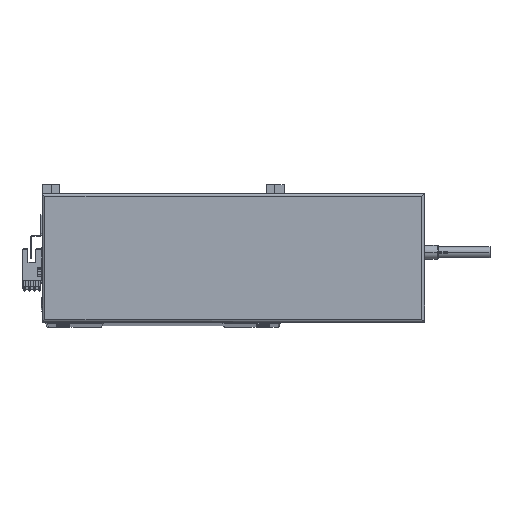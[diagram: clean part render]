
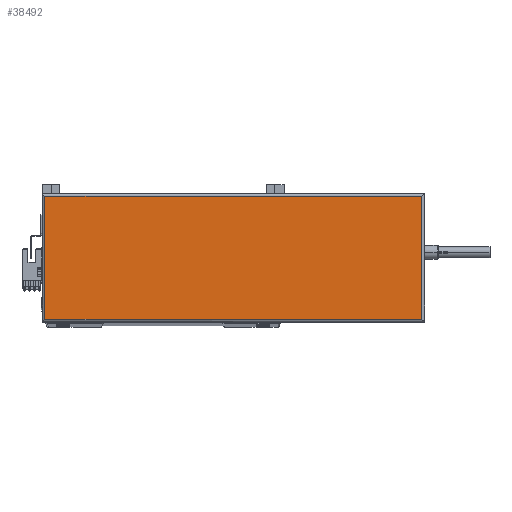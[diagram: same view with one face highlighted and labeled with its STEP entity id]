
A CAD part, top view. The second image highlights one B-rep face of the part: STEP entity #38492.
In plain terms, the highlighted planar face has unit normal (0, 0, 1).
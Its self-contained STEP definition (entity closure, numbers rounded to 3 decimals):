
#622 = VECTOR ( 'NONE', #47829, 1000. ) ;
#3117 = CARTESIAN_POINT ( 'NONE',  ( 265., 2., 44.8 ) ) ;
#6159 = EDGE_CURVE ( 'NONE', #48259, #52795, #32741, .T. ) ;
#7059 = CARTESIAN_POINT ( 'NONE',  ( 2., 0., 44.8 ) ) ;
#10241 = DIRECTION ( 'NONE',  ( 0., 0., 1. ) ) ;
#10336 = CARTESIAN_POINT ( 'NONE',  ( 265., 88., 44.8 ) ) ;
#13478 = LINE ( 'NONE', #26673, #622 ) ;
#14375 = DIRECTION ( 'NONE',  ( 1., 0., 0. ) ) ;
#14754 = DIRECTION ( 'NONE',  ( 1., 0., 0. ) ) ;
#14905 = VERTEX_POINT ( 'NONE', #3117 ) ;
#19113 = LINE ( 'NONE', #37573, #32593 ) ;
#19609 = CARTESIAN_POINT ( 'NONE',  ( 267., 2., 44.8 ) ) ;
#20618 = EDGE_CURVE ( 'NONE', #14905, #43282, #19113, .T. ) ;
#21281 = VECTOR ( 'NONE', #14754, 1000. ) ;
#22012 = AXIS2_PLACEMENT_3D ( 'NONE', #34831, #10241, #14375 ) ;
#26673 = CARTESIAN_POINT ( 'NONE',  ( 0., 88., 44.8 ) ) ;
#30709 = PLANE ( 'NONE',  #22012 ) ;
#32593 = VECTOR ( 'NONE', #41712, 1000. ) ;
#32741 = LINE ( 'NONE', #7059, #50053 ) ;
#33537 = CARTESIAN_POINT ( 'NONE',  ( 2., 88., 44.8 ) ) ;
#33610 = ORIENTED_EDGE ( 'NONE', *, *, #34743, .T. ) ;
#34743 = EDGE_CURVE ( 'NONE', #52795, #14905, #36046, .T. ) ;
#34831 = CARTESIAN_POINT ( 'NONE',  ( 133.5, 45., 44.8 ) ) ;
#36046 = LINE ( 'NONE', #19609, #21281 ) ;
#36355 = CARTESIAN_POINT ( 'NONE',  ( 2., 2., 44.8 ) ) ;
#37573 = CARTESIAN_POINT ( 'NONE',  ( 265., 90., 44.8 ) ) ;
#38492 = ADVANCED_FACE ( 'NONE', ( #38965 ), #30709, .T. ) ;
#38834 = EDGE_LOOP ( 'NONE', ( #45964, #47382, #40073, #33610 ) ) ;
#38965 = FACE_OUTER_BOUND ( 'NONE', #38834, .T. ) ;
#40073 = ORIENTED_EDGE ( 'NONE', *, *, #6159, .T. ) ;
#41712 = DIRECTION ( 'NONE',  ( 0., 1., 0. ) ) ;
#43282 = VERTEX_POINT ( 'NONE', #10336 ) ;
#44407 = EDGE_CURVE ( 'NONE', #43282, #48259, #13478, .T. ) ;
#45964 = ORIENTED_EDGE ( 'NONE', *, *, #20618, .T. ) ;
#47382 = ORIENTED_EDGE ( 'NONE', *, *, #44407, .T. ) ;
#47829 = DIRECTION ( 'NONE',  ( -1., 0., 0. ) ) ;
#48259 = VERTEX_POINT ( 'NONE', #33537 ) ;
#50053 = VECTOR ( 'NONE', #51910, 1000. ) ;
#51910 = DIRECTION ( 'NONE',  ( 0., -1., 0. ) ) ;
#52795 = VERTEX_POINT ( 'NONE', #36355 ) ;
